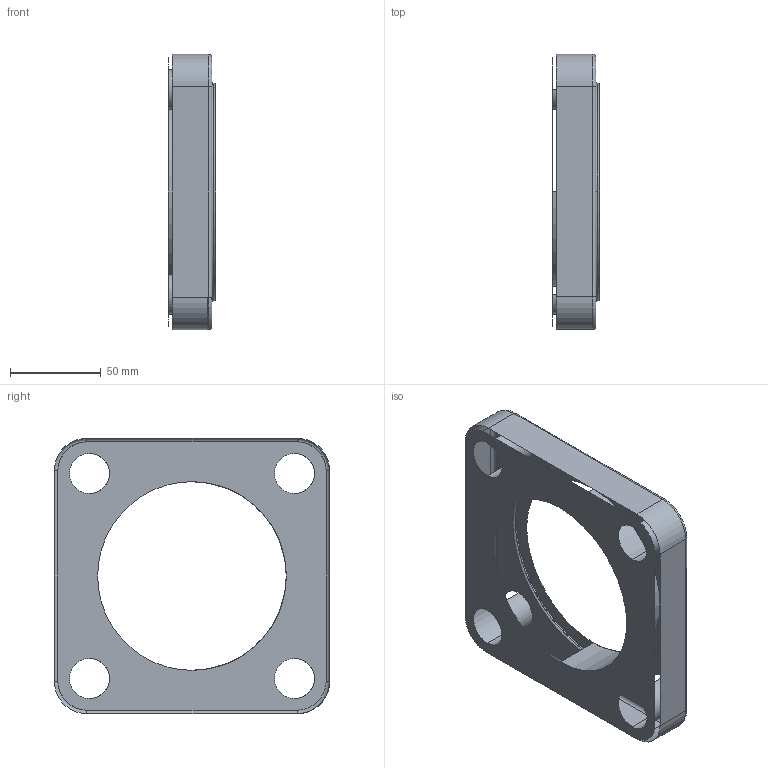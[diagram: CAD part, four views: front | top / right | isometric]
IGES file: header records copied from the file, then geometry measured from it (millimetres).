
Start section: SolidWorks IGES file using analytic representation for surfaces 100,-74.,22.,-58.,24.,-58.,22.,-56.;                      SolidWorks IGE
Global section: file name: D:\3D外觀整機\法蘭\igs\3”flange.IGS; native system: SolidWorks 2013; preprocessor: SolidWorks 2013; author: hedylu; date: 140417.083812; units: millimetre
Bounding box: 26 x 152 x 152 mm (x, y, z)
Surface area: 44846.5 mm2 (no closed solid volume)
Topology: 0 solids, 0 shells, 28 faces, 687 edges, 690 vertices
Faces by surface type: revolution 15, bspline 13
